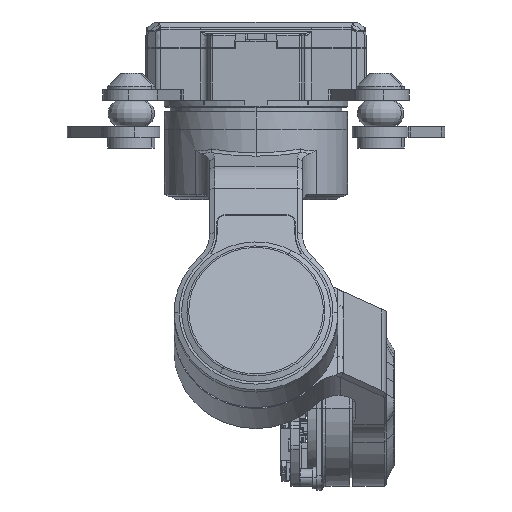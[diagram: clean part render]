
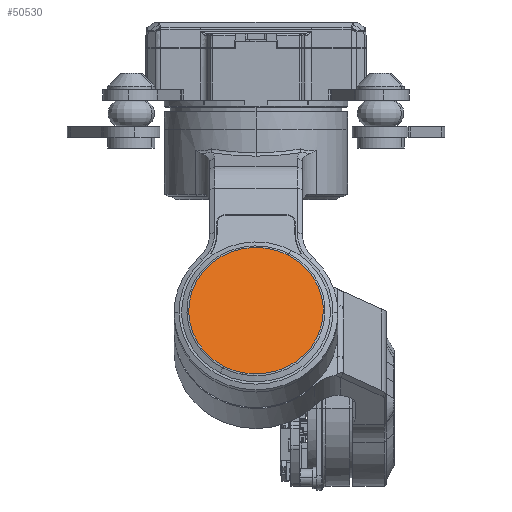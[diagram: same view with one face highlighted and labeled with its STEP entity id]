
A CAD part, left-side view. The second image highlights one B-rep face of the part: STEP entity #50530.
In plain terms, the highlighted planar face has unit normal (-0.94, 0, 0.342).
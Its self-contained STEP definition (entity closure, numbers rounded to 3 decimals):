
#50035=CARTESIAN_POINT('Vertex',(-48.381,-13.674,14.474)) ;
#50042=CARTESIAN_POINT('Vertex',(-42.376,-20.066,30.973)) ;
#50046=CARTESIAN_POINT('Control Point',(-42.376,-20.066,30.973)) ;
#50047=CARTESIAN_POINT('Control Point',(-42.596,-21.243,30.369)) ;
#50048=CARTESIAN_POINT('Control Point',(-42.887,-22.306,29.568)) ;
#50049=CARTESIAN_POINT('Control Point',(-43.241,-23.206,28.596)) ;
#50050=CARTESIAN_POINT('Control Point',(-44.042,-24.599,26.394)) ;
#50051=CARTESIAN_POINT('Control Point',(-44.958,-25.101,23.877)) ;
#50052=CARTESIAN_POINT('Control Point',(-45.427,-25.109,22.589)) ;
#50053=CARTESIAN_POINT('Control Point',(-46.345,-24.639,20.066)) ;
#50054=CARTESIAN_POINT('Control Point',(-47.152,-23.273,17.85)) ;
#50055=CARTESIAN_POINT('Control Point',(-47.509,-22.386,16.868)) ;
#50056=CARTESIAN_POINT('Control Point',(-48.101,-20.279,15.243)) ;
#50057=CARTESIAN_POINT('Control Point',(-48.408,-17.706,14.398)) ;
#50058=CARTESIAN_POINT('Control Point',(-48.482,-16.352,14.197)) ;
#50059=CARTESIAN_POINT('Control Point',(-48.471,-14.99,14.226)) ;
#50060=CARTESIAN_POINT('Control Point',(-48.381,-13.674,14.474)) ;
#50075=CARTESIAN_POINT('Control Point',(-48.381,-13.674,14.474)) ;
#50076=CARTESIAN_POINT('Control Point',(-48.317,-12.742,14.65)) ;
#50077=CARTESIAN_POINT('Control Point',(-48.204,-11.839,14.959)) ;
#50078=CARTESIAN_POINT('Control Point',(-48.048,-11.004,15.387)) ;
#50079=CARTESIAN_POINT('Vertex',(-48.048,-11.004,15.387)) ;
#50099=CARTESIAN_POINT('Axis2P3D Location',(-45.212,-15.535,23.18)) ;
#50520=CARTESIAN_POINT('Axis2P3D Location',(-45.212,-15.535,23.18)) ;
#50100=DIRECTION('Axis2P3D Direction',(0.94,0.,-0.342)) ;
#50521=DIRECTION('Axis2P3D Direction',(0.94,0.,-0.342)) ;
#50522=DIRECTION('Axis2P3D XDirection',(0.342,0.,0.94)) ;
#50101=AXIS2_PLACEMENT_3D('Circle Axis2P3D',#50099,#50100,$) ;
#50523=AXIS2_PLACEMENT_3D('Plane Axis2P3D',#50520,#50521,#50522) ;
#50526=ORIENTED_EDGE('',*,*,#50081,.F.) ;
#50527=ORIENTED_EDGE('',*,*,#50061,.F.) ;
#50528=ORIENTED_EDGE('',*,*,#50103,.F.) ;
#50530=ADVANCED_FACE('Brep With Voids',(#50529),#50524,.F.) ;
#50045=B_SPLINE_CURVE_WITH_KNOTS('',5,(#50046,#50047,#50048,#50049,#50050,#50051,#50052,#50053,#50054,#50055,#50056,#50057,#50058,#50059,#50060),.UNSPECIFIED.,.F.,.U.,(6,3,3,3,6),(0.,9.538,19.077,28.615,38.153),.UNSPECIFIED.) ;
#50074=B_SPLINE_CURVE_WITH_KNOTS('',3,(#50075,#50076,#50077,#50078),.UNSPECIFIED.,.F.,.U.,(4,4),(0.,4.041),.UNSPECIFIED.) ;
#50102=CIRCLE('generated circle',#50101,9.45) ;
#50061=EDGE_CURVE('',#50043,#50036,#50045,.T.) ;
#50081=EDGE_CURVE('',#50036,#50080,#50074,.T.) ;
#50103=EDGE_CURVE('',#50080,#50043,#50102,.T.) ;
#50525=EDGE_LOOP('',(#50526,#50527,#50528)) ;
#50529=FACE_OUTER_BOUND('',#50525,.T.) ;
#50524=PLANE('',#50523) ;
#50036=VERTEX_POINT('',#50035) ;
#50043=VERTEX_POINT('',#50042) ;
#50080=VERTEX_POINT('',#50079) ;
